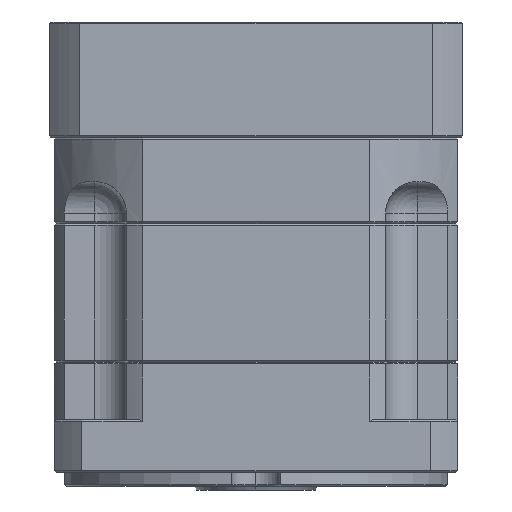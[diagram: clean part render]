
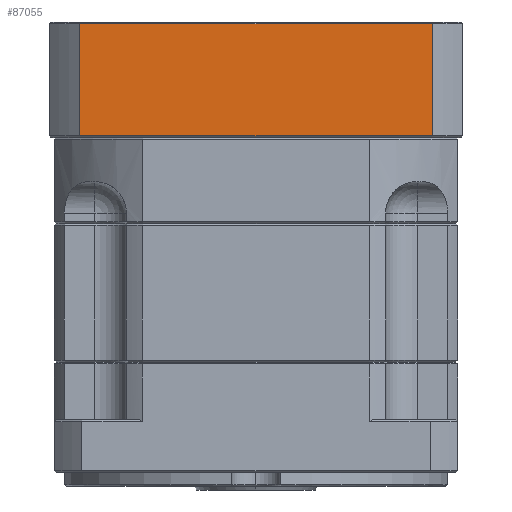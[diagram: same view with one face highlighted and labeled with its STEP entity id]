
A CAD part, left-side view. The second image highlights one B-rep face of the part: STEP entity #87055.
In plain terms, the highlighted planar face has unit normal (-1, 0, 0).
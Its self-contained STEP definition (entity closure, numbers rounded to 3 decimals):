
#5224 = VERTEX_POINT ( 'NONE', #24307 ) ;
#5509 = DIRECTION ( 'NONE',  ( 0., 1., 0. ) ) ;
#8544 = EDGE_CURVE ( 'NONE', #25206, #68644, #31425, .T. ) ;
#9865 = ORIENTED_EDGE ( 'NONE', *, *, #72753, .T. ) ;
#11171 = LINE ( 'NONE', #35247, #73197 ) ;
#11835 = ORIENTED_EDGE ( 'NONE', *, *, #37218, .T. ) ;
#13543 = VERTEX_POINT ( 'NONE', #44622 ) ;
#19449 = ORIENTED_EDGE ( 'NONE', *, *, #25211, .F. ) ;
#21204 = VECTOR ( 'NONE', #72630, 1000. ) ;
#24307 = CARTESIAN_POINT ( 'NONE',  ( -12.997, -6.534, -17.701 ) ) ;
#25206 = VERTEX_POINT ( 'NONE', #98048 ) ;
#25211 = EDGE_CURVE ( 'NONE', #5224, #13543, #11171, .T. ) ;
#28837 = CARTESIAN_POINT ( 'NONE',  ( -12.997, 93.97, -17.201 ) ) ;
#31425 = LINE ( 'NONE', #28837, #98967 ) ;
#35247 = CARTESIAN_POINT ( 'NONE',  ( -12.997, -6.534, -17.201 ) ) ;
#37218 = EDGE_CURVE ( 'NONE', #5224, #25206, #109403, .T. ) ;
#38067 = DIRECTION ( 'NONE',  ( 0., 0., -1. ) ) ;
#40694 = PLANE ( 'NONE',  #62730 ) ;
#44622 = CARTESIAN_POINT ( 'NONE',  ( -12.997, -6.534, -49.701 ) ) ;
#48865 = CARTESIAN_POINT ( 'NONE',  ( -12.997, -6.534, -17.201 ) ) ;
#58006 = DIRECTION ( 'NONE',  ( 1., 0., 0. ) ) ;
#62730 = AXIS2_PLACEMENT_3D ( 'NONE', #48865, #58006, #5509 ) ;
#66363 = EDGE_LOOP ( 'NONE', ( #19449, #11835, #67206, #9865 ) ) ;
#67206 = ORIENTED_EDGE ( 'NONE', *, *, #8544, .T. ) ;
#68644 = VERTEX_POINT ( 'NONE', #98478 ) ;
#70653 = VECTOR ( 'NONE', #73646, 1000. ) ;
#72630 = DIRECTION ( 'NONE',  ( 0., 1., 0. ) ) ;
#72753 = EDGE_CURVE ( 'NONE', #68644, #13543, #98300, .T. ) ;
#73197 = VECTOR ( 'NONE', #88037, 1000. ) ;
#73646 = DIRECTION ( 'NONE',  ( 0., -1., 0. ) ) ;
#74637 = FACE_OUTER_BOUND ( 'NONE', #66363, .T. ) ;
#87055 = ADVANCED_FACE ( 'NONE', ( #74637 ), #40694, .F. ) ;
#88037 = DIRECTION ( 'NONE',  ( 0., 0., -1. ) ) ;
#90702 = CARTESIAN_POINT ( 'NONE',  ( -12.997, -6.534, -49.701 ) ) ;
#98048 = CARTESIAN_POINT ( 'NONE',  ( -12.997, 93.97, -17.701 ) ) ;
#98300 = LINE ( 'NONE', #90702, #70653 ) ;
#98478 = CARTESIAN_POINT ( 'NONE',  ( -12.997, 93.97, -49.701 ) ) ;
#98967 = VECTOR ( 'NONE', #38067, 1000. ) ;
#109403 = LINE ( 'NONE', #111522, #21204 ) ;
#111522 = CARTESIAN_POINT ( 'NONE',  ( -12.997, 93.97, -17.701 ) ) ;
